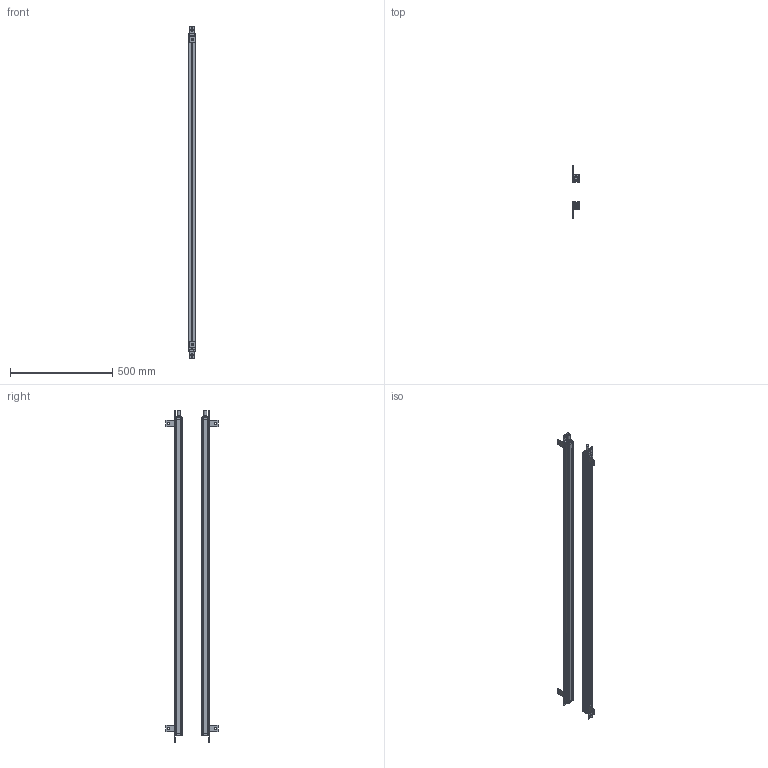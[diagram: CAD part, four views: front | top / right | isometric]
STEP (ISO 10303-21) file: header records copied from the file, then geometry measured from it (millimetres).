
FILE_DESCRIPTION(/* description */ (''),/* implementation_level */ '2;1');
FILE_NAME(/* name */ '3840_35X35.stp',/* time_stamp */ '2023-09-18T16:00:55+08:00',/* author */ (''),/* organization */ (''),/* preprocessor_version */ 'ST-DEVELOPER v16.7',/* originating_system */ 'SIEMENS PLM Software NX 12.0',/* authorisation */ '');
FILE_SCHEMA (('AP203_CONFIGURATION_CONTROLLED_3D_DESIGN_OF_MECHANICAL_PARTS_AND_ASSEMBLIES_MIM_LF { 1 0 10303 403 2 1 2}'));
Length unit declared in the file: millimetre
Products named in the file (1): 3840_35X35_stp
Bounding box: 35.41 x 258.01 x 1621.6 mm (x, y, z)
Volume: 1494887.2 mm3; surface area: 1120280.8 mm2
Topology: 28 solids, 28 shells, 1182 faces, 3360 edges, 2260 vertices
Faces by surface type: plane 658, cylinder 464, cone 60
Full cylindrical faces by diameter (mm): 3.2 x8, 6 x24, 13 x2, 14.4 x2, 15 x2
Entity records: 39055 total; most frequent: DIRECTION 6832, CARTESIAN_POINT 6745, ORIENTED_EDGE 6612, EDGE_CURVE 3306, AXIS2_PLACEMENT_3D 2347, VERTEX_POINT 2244, LINE 2138, VECTOR 2138
